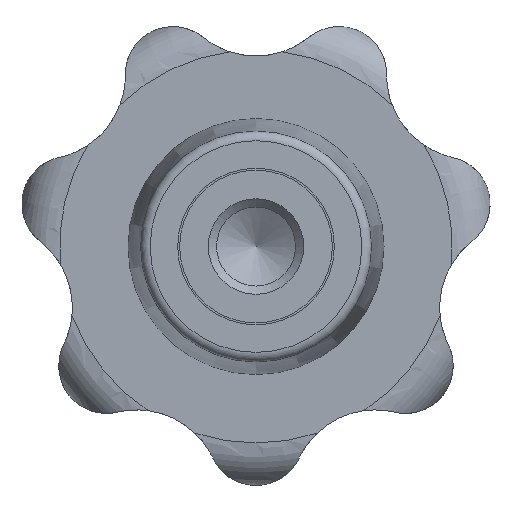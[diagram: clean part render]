
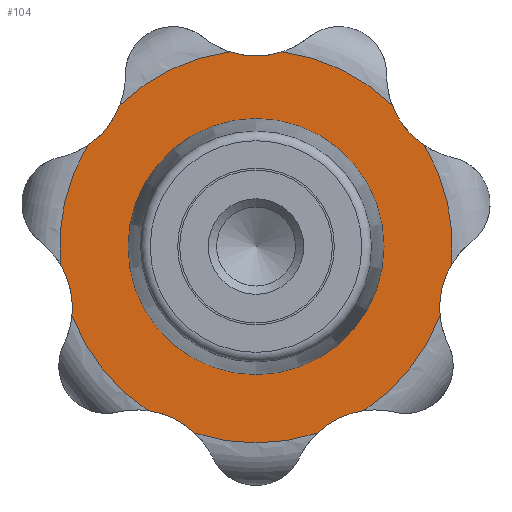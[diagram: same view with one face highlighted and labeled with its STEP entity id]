
A CAD part, front view. The second image highlights one B-rep face of the part: STEP entity #104.
In plain terms, the highlighted planar face has unit normal (0, -1, 0).
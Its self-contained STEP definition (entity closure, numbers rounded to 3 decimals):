
#104 = ADVANCED_FACE( '', ( #194, #195 ), #196, .F. );
#194 = FACE_BOUND( '', #303, .T. );
#195 = FACE_OUTER_BOUND( '', #304, .T. );
#196 = PLANE( '', #305 );
#303 = EDGE_LOOP( '', ( #560 ) );
#304 = EDGE_LOOP( '', ( #561, #562, #563, #564, #565, #566, #567, #568, #569, #570, #571, #572, #573, #574 ) );
#305 = AXIS2_PLACEMENT_3D( '', #575, #576, #577 );
#560 = ORIENTED_EDGE( '', *, *, #811, .F. );
#561 = ORIENTED_EDGE( '', *, *, #812, .F. );
#562 = ORIENTED_EDGE( '', *, *, #748, .T. );
#563 = ORIENTED_EDGE( '', *, *, #813, .F. );
#564 = ORIENTED_EDGE( '', *, *, #753, .T. );
#565 = ORIENTED_EDGE( '', *, *, #814, .F. );
#566 = ORIENTED_EDGE( '', *, *, #815, .T. );
#567 = ORIENTED_EDGE( '', *, *, #816, .F. );
#568 = ORIENTED_EDGE( '', *, *, #817, .T. );
#569 = ORIENTED_EDGE( '', *, *, #818, .F. );
#570 = ORIENTED_EDGE( '', *, *, #795, .T. );
#571 = ORIENTED_EDGE( '', *, *, #819, .F. );
#572 = ORIENTED_EDGE( '', *, *, #791, .T. );
#573 = ORIENTED_EDGE( '', *, *, #800, .F. );
#574 = ORIENTED_EDGE( '', *, *, #763, .T. );
#575 = CARTESIAN_POINT( '', ( 10.28, 8., 0. ) );
#576 = DIRECTION( '', ( 0., 1., 0. ) );
#577 = DIRECTION( '', ( 0., 0., 1. ) );
#748 = EDGE_CURVE( '', #894, #895, #896, .T. );
#753 = EDGE_CURVE( '', #903, #904, #905, .T. );
#763 = EDGE_CURVE( '', #922, #920, #923, .T. );
#791 = EDGE_CURVE( '', #965, #966, #967, .T. );
#795 = EDGE_CURVE( '', #972, #973, #974, .T. );
#800 = EDGE_CURVE( '', #922, #966, #980, .F. );
#811 = EDGE_CURVE( '', #999, #999, #1000, .T. );
#812 = EDGE_CURVE( '', #894, #920, #1001, .F. );
#813 = EDGE_CURVE( '', #903, #895, #1002, .F. );
#814 = EDGE_CURVE( '', #1003, #904, #1004, .F. );
#815 = EDGE_CURVE( '', #1003, #1005, #1006, .T. );
#816 = EDGE_CURVE( '', #1007, #1005, #1008, .F. );
#817 = EDGE_CURVE( '', #1007, #1009, #1010, .T. );
#818 = EDGE_CURVE( '', #972, #1009, #1011, .F. );
#819 = EDGE_CURVE( '', #965, #973, #1012, .F. );
#894 = VERTEX_POINT( '', #1357 );
#895 = VERTEX_POINT( '', #1358 );
#896 = CIRCLE( '', #1359, 10.28 );
#903 = VERTEX_POINT( '', #1397 );
#904 = VERTEX_POINT( '', #1398 );
#905 = CIRCLE( '', #1399, 10.28 );
#920 = VERTEX_POINT( '', #1463 );
#922 = VERTEX_POINT( '', #1470 );
#923 = CIRCLE( '', #1471, 10.28 );
#965 = VERTEX_POINT( '', #1760 );
#966 = VERTEX_POINT( '', #1761 );
#967 = CIRCLE( '', #1762, 10.28 );
#972 = VERTEX_POINT( '', #1798 );
#973 = VERTEX_POINT( '', #1799 );
#974 = CIRCLE( '', #1800, 10.28 );
#980 = CIRCLE( '', #1838, 4.392 );
#999 = VERTEX_POINT( '', #1857 );
#1000 = CIRCLE( '', #1858, 6.699 );
#1001 = CIRCLE( '', #1859, 4.392 );
#1002 = CIRCLE( '', #1860, 4.392 );
#1003 = VERTEX_POINT( '', #1861 );
#1004 = CIRCLE( '', #1862, 4.392 );
#1005 = VERTEX_POINT( '', #1863 );
#1006 = CIRCLE( '', #1864, 10.28 );
#1007 = VERTEX_POINT( '', #1865 );
#1008 = CIRCLE( '', #1866, 4.392 );
#1009 = VERTEX_POINT( '', #1867 );
#1010 = CIRCLE( '', #1868, 10.28 );
#1011 = CIRCLE( '', #1869, 4.392 );
#1012 = CIRCLE( '', #1870, 4.392 );
#1357 = CARTESIAN_POINT( '', ( -9.631, 8., -3.595 ) );
#1358 = CARTESIAN_POINT( '', ( -5.648, 8., -8.59 ) );
#1359 = AXIS2_PLACEMENT_3D( '', #1979, #1980, #1981 );
#1397 = CARTESIAN_POINT( '', ( -3.194, 8., -9.771 ) );
#1398 = CARTESIAN_POINT( '', ( 3.194, 8., -9.771 ) );
#1399 = AXIS2_PLACEMENT_3D( '', #1985, #1986, #1987 );
#1463 = CARTESIAN_POINT( '', ( -10.237, 8., -0.94 ) );
#1470 = CARTESIAN_POINT( '', ( -8.815, 8., 5.289 ) );
#1471 = AXIS2_PLACEMENT_3D( '', #1998, #1999, #2000 );
#1760 = CARTESIAN_POINT( '', ( -1.362, 8., 10.189 ) );
#1761 = CARTESIAN_POINT( '', ( -7.118, 8., 7.418 ) );
#1762 = AXIS2_PLACEMENT_3D( '', #2030, #2031, #2032 );
#1798 = CARTESIAN_POINT( '', ( 7.118, 8., 7.418 ) );
#1799 = CARTESIAN_POINT( '', ( 1.362, 8., 10.189 ) );
#1800 = AXIS2_PLACEMENT_3D( '', #2033, #2034, #2035 );
#1838 = AXIS2_PLACEMENT_3D( '', #2037, #2038, #2039 );
#1857 = CARTESIAN_POINT( '', ( 0., 8., -6.699 ) );
#1858 = AXIS2_PLACEMENT_3D( '', #2067, #2068, #2069 );
#1859 = AXIS2_PLACEMENT_3D( '', #2070, #2071, #2072 );
#1860 = AXIS2_PLACEMENT_3D( '', #2073, #2074, #2075 );
#1861 = CARTESIAN_POINT( '', ( 5.648, 8., -8.59 ) );
#1862 = AXIS2_PLACEMENT_3D( '', #2076, #2077, #2078 );
#1863 = CARTESIAN_POINT( '', ( 9.631, 8., -3.595 ) );
#1864 = AXIS2_PLACEMENT_3D( '', #2079, #2080, #2081 );
#1865 = CARTESIAN_POINT( '', ( 10.237, 8., -0.94 ) );
#1866 = AXIS2_PLACEMENT_3D( '', #2082, #2083, #2084 );
#1867 = CARTESIAN_POINT( '', ( 8.815, 8., 5.289 ) );
#1868 = AXIS2_PLACEMENT_3D( '', #2085, #2086, #2087 );
#1869 = AXIS2_PLACEMENT_3D( '', #2088, #2089, #2090 );
#1870 = AXIS2_PLACEMENT_3D( '', #2091, #2092, #2093 );
#1979 = CARTESIAN_POINT( '', ( 0., 8., 0. ) );
#1980 = DIRECTION( '', ( 0., -1., 0. ) );
#1981 = DIRECTION( '', ( 0., 0., -1. ) );
#1985 = CARTESIAN_POINT( '', ( 0., 8., 0. ) );
#1986 = DIRECTION( '', ( 0., -1., 0. ) );
#1987 = DIRECTION( '', ( 0., 0., -1. ) );
#1998 = CARTESIAN_POINT( '', ( 0., 8., 0. ) );
#1999 = DIRECTION( '', ( 0., -1., 0. ) );
#2000 = DIRECTION( '', ( 0., 0., -1. ) );
#2030 = CARTESIAN_POINT( '', ( 0., 8., 0. ) );
#2031 = DIRECTION( '', ( 0., -1., 0. ) );
#2032 = DIRECTION( '', ( 0., 0., -1. ) );
#2033 = CARTESIAN_POINT( '', ( 0., 8., 0. ) );
#2034 = DIRECTION( '', ( 0., -1., 0. ) );
#2035 = DIRECTION( '', ( 0., 0., -1. ) );
#2037 = CARTESIAN_POINT( '', ( -11.231, 8., 8.956 ) );
#2038 = DIRECTION( '', ( 0., 1., 0. ) );
#2039 = DIRECTION( '', ( 0., 0., 1. ) );
#2067 = CARTESIAN_POINT( '', ( 0., 8., 0. ) );
#2068 = DIRECTION( '', ( 0., -1., 0. ) );
#2069 = DIRECTION( '', ( 0., 0., -1. ) );
#2070 = CARTESIAN_POINT( '', ( -14.005, 8., -3.197 ) );
#2071 = DIRECTION( '', ( 0., 1., 0. ) );
#2072 = DIRECTION( '', ( 0., 0., 1. ) );
#2073 = CARTESIAN_POINT( '', ( -6.233, 8., -12.942 ) );
#2074 = DIRECTION( '', ( 0., 1., 0. ) );
#2075 = DIRECTION( '', ( 0., 0., 1. ) );
#2076 = CARTESIAN_POINT( '', ( 6.233, 8., -12.942 ) );
#2077 = DIRECTION( '', ( 0., 1., 0. ) );
#2078 = DIRECTION( '', ( 0., 0., 1. ) );
#2079 = CARTESIAN_POINT( '', ( 0., 8., 0. ) );
#2080 = DIRECTION( '', ( 0., -1., 0. ) );
#2081 = DIRECTION( '', ( 0., 0., -1. ) );
#2082 = CARTESIAN_POINT( '', ( 14.005, 8., -3.197 ) );
#2083 = DIRECTION( '', ( 0., 1., 0. ) );
#2084 = DIRECTION( '', ( 0., 0., 1. ) );
#2085 = CARTESIAN_POINT( '', ( 0., 8., 0. ) );
#2086 = DIRECTION( '', ( 0., -1., 0. ) );
#2087 = DIRECTION( '', ( 0., 0., -1. ) );
#2088 = CARTESIAN_POINT( '', ( 11.231, 8., 8.956 ) );
#2089 = DIRECTION( '', ( 0., 1., 0. ) );
#2090 = DIRECTION( '', ( 0., 0., 1. ) );
#2091 = CARTESIAN_POINT( '', ( 0., 8., 14.365 ) );
#2092 = DIRECTION( '', ( 0., 1., 0. ) );
#2093 = DIRECTION( '', ( 0., 0., 1. ) );
